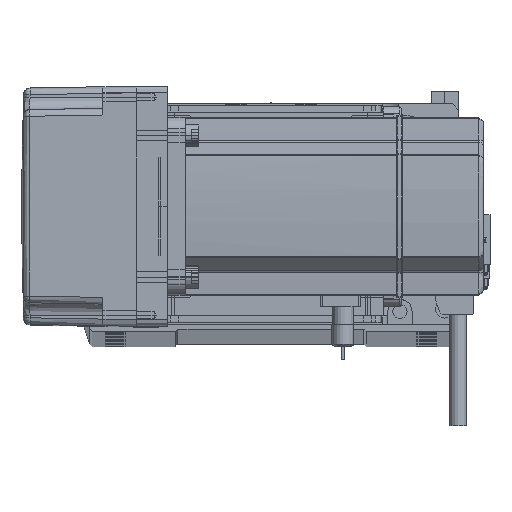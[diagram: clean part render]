
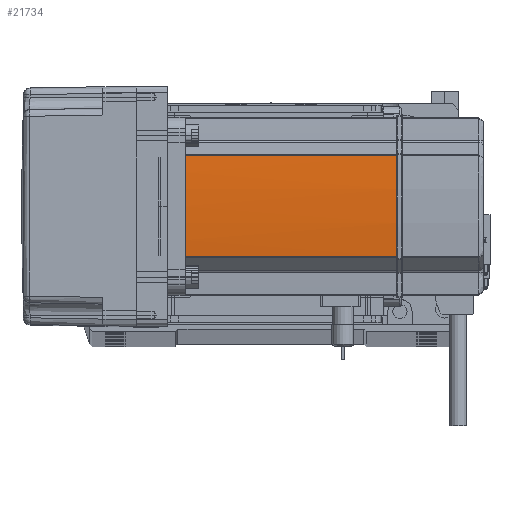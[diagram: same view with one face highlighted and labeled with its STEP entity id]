
A CAD part, top view. The second image highlights one B-rep face of the part: STEP entity #21734.
In plain terms, the highlighted cylindrical face has radius 270 mm (diameter 540 mm), a partial arc.
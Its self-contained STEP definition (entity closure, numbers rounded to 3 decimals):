
#536 = CARTESIAN_POINT ( 'NONE',  ( 39.042, -22.724, 39. ) ) ;
#747 = ORIENTED_EDGE ( 'NONE', *, *, #12097, .T. ) ;
#2638 = CARTESIAN_POINT ( 'NONE',  ( -230., 0., 134. ) ) ;
#4397 = CARTESIAN_POINT ( 'NONE',  ( -230., 0., 134. ) ) ;
#4647 = AXIS2_PLACEMENT_3D ( 'NONE', #4397, #67492, #51713 ) ;
#4907 = CARTESIAN_POINT ( 'NONE',  ( -230., 0., 39. ) ) ;
#4996 = EDGE_CURVE ( 'NONE', #45472, #36894, #22746, .T. ) ;
#7494 = CARTESIAN_POINT ( 'NONE',  ( -230., 0., 58. ) ) ;
#7816 = DIRECTION ( 'NONE',  ( 0., 0., -1. ) ) ;
#12097 = EDGE_CURVE ( 'NONE', #27940, #63488, #41947, .T. ) ;
#13014 = CIRCLE ( 'NONE', #15425, 270. ) ;
#13442 = EDGE_LOOP ( 'NONE', ( #747, #25554, #18338, #15631, #49779, #62134 ) ) ;
#15425 = AXIS2_PLACEMENT_3D ( 'NONE', #4907, #26098, #20742 ) ;
#15631 = ORIENTED_EDGE ( 'NONE', *, *, #33413, .T. ) ;
#16337 = CIRCLE ( 'NONE', #4647, 270. ) ;
#17007 = DIRECTION ( 'NONE',  ( -1., 0., 0. ) ) ;
#18338 = ORIENTED_EDGE ( 'NONE', *, *, #4996, .T. ) ;
#18949 = DIRECTION ( 'NONE',  ( -1., 0., 0. ) ) ;
#19462 = CYLINDRICAL_SURFACE ( 'NONE', #30754, 270. ) ;
#20241 = VECTOR ( 'NONE', #52542, 1000. ) ;
#20742 = DIRECTION ( 'NONE',  ( -1., 0., 0. ) ) ;
#20902 = CARTESIAN_POINT ( 'NONE',  ( 40., -0.042, 134. ) ) ;
#21734 = ADVANCED_FACE ( 'NONE', ( #39471 ), #19462, .T. ) ;
#22746 = LINE ( 'NONE', #50316, #42781 ) ;
#23333 = CARTESIAN_POINT ( 'NONE',  ( 39.042, 22.724, 134. ) ) ;
#25554 = ORIENTED_EDGE ( 'NONE', *, *, #37085, .F. ) ;
#26098 = DIRECTION ( 'NONE',  ( 0., 0., -1. ) ) ;
#27614 = EDGE_CURVE ( 'NONE', #58325, #27940, #16337, .T. ) ;
#27940 = VERTEX_POINT ( 'NONE', #54681 ) ;
#30754 = AXIS2_PLACEMENT_3D ( 'NONE', #7494, #54777, #17007 ) ;
#33413 = EDGE_CURVE ( 'NONE', #36894, #44372, #40037, .T. ) ;
#36540 = CARTESIAN_POINT ( 'NONE',  ( 40., -0.127, 134. ) ) ;
#36894 = VERTEX_POINT ( 'NONE', #23333 ) ;
#37085 = EDGE_CURVE ( 'NONE', #45472, #63488, #13014, .T. ) ;
#39471 = FACE_OUTER_BOUND ( 'NONE', #13442, .T. ) ;
#40037 = CIRCLE ( 'NONE', #48739, 270. ) ;
#41947 = LINE ( 'NONE', #53218, #20241 ) ;
#42379 = B_SPLINE_CURVE_WITH_KNOTS ( 'NONE', 3,
 ( #36540, #20902, #58412, #58184 ),
 .UNSPECIFIED., .F., .F.,
 ( 4, 4 ),
 ( 0., 1. ),
 .UNSPECIFIED. ) ;
#42781 = VECTOR ( 'NONE', #61219, 1000. ) ;
#43111 = CARTESIAN_POINT ( 'NONE',  ( 40., -0.127, 134. ) ) ;
#44372 = VERTEX_POINT ( 'NONE', #49439 ) ;
#45472 = VERTEX_POINT ( 'NONE', #54418 ) ;
#48739 = AXIS2_PLACEMENT_3D ( 'NONE', #2638, #7816, #18949 ) ;
#49439 = CARTESIAN_POINT ( 'NONE',  ( 40., 0.127, 134. ) ) ;
#49779 = ORIENTED_EDGE ( 'NONE', *, *, #56176, .F. ) ;
#50316 = CARTESIAN_POINT ( 'NONE',  ( 39.042, 22.724, 58. ) ) ;
#51713 = DIRECTION ( 'NONE',  ( -1., 0., 0. ) ) ;
#52542 = DIRECTION ( 'NONE',  ( 0., 0., -1. ) ) ;
#53218 = CARTESIAN_POINT ( 'NONE',  ( 39.042, -22.724, 58. ) ) ;
#54418 = CARTESIAN_POINT ( 'NONE',  ( 39.042, 22.724, 39. ) ) ;
#54681 = CARTESIAN_POINT ( 'NONE',  ( 39.042, -22.724, 134. ) ) ;
#54777 = DIRECTION ( 'NONE',  ( 0., 0., -1. ) ) ;
#56176 = EDGE_CURVE ( 'NONE', #58325, #44372, #42379, .T. ) ;
#58184 = CARTESIAN_POINT ( 'NONE',  ( 40., 0.127, 134. ) ) ;
#58325 = VERTEX_POINT ( 'NONE', #43111 ) ;
#58412 = CARTESIAN_POINT ( 'NONE',  ( 40., 0.042, 134. ) ) ;
#61219 = DIRECTION ( 'NONE',  ( 0., 0., 1. ) ) ;
#62134 = ORIENTED_EDGE ( 'NONE', *, *, #27614, .T. ) ;
#63488 = VERTEX_POINT ( 'NONE', #536 ) ;
#67492 = DIRECTION ( 'NONE',  ( 0., 0., -1. ) ) ;
